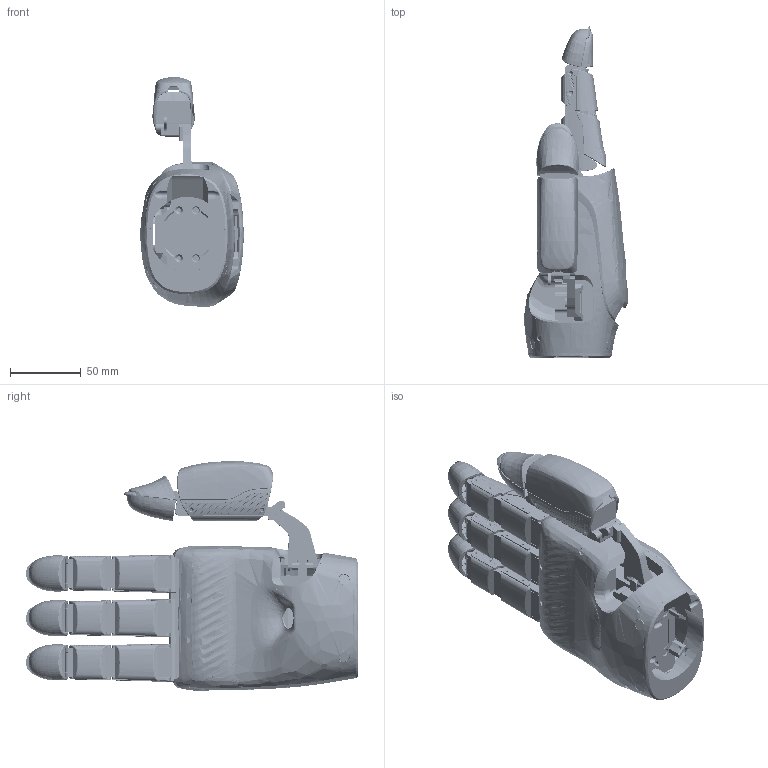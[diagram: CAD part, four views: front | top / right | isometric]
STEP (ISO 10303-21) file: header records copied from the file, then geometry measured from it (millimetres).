
FILE_DESCRIPTION((''),'2;1');
FILE_NAME('1-_1-EVT40001_ASM_ASM','2025-02-07T16:50:09',('yuyongkun'),(''),'CREO PARAMETRIC BY PTC INC, 2021063','CREO PARAMETRIC BY PTC INC, 2021063','');
FILE_SCHEMA(('AP242_MANAGED_MODEL_BASED_3D_ENGINEERING_MIM_LF { 1 0 10303 442 1 1 4 }'));
Products named in the file (79): P01H9-MP0-01-D10001_1; P01H9M1-09-B000_1_1; P01H9M1-09-B000_1_ASM; 1--------OLD_AF1000_ASM_2_ASM; P01H9-MP0-20-D500_2; P01H9-MP0-21-D600_2; P01H9-MP0-24-D0001_1; 00-G_1_1_1_2_2; 00-H_1_1_1_2_2; 20003_ASM_1_ASM; P01H9-MP0-23-D0001_3; 00-D_1_1_1_1_2_2; 00-E_1_3_2; 10003_ASM_2_ASM; P01H9M1-118-C-10001_2; P01H9M1-119-B-10001_2; P01H9M1-120-B-10001_2; 2409230001_ASM_2_ASM; 1-2407090001_ASM_2_ASM; P01H9M1-121-C-20001_2; P01H9M1-122-B-20001_2; 2_2409060001_ASM_3_ASM; 20004_ASM_1_ASM; P01S0M1-20001-A_1_2; PXSR-STDDP02B-20240705_ASM_35_A_ASM; PXSR-STDDP02B-20240705_ASM_ASM__ASM; P01H9-MP0-35-D0001_2; P01H9-MP3-27-C-0001_2; H132411270001_ASM_2_ASM; 32407090001_ASM_1_ASM; _EVT4_AF0_ASM_2_ASM; 1--------OLD_AF2000_ASM_2_ASM; _EVT4_AF1_ASM_2_ASM; 1--------OLD_AF3000_ASM_2_ASM; _EVT4_AF2_ASM_2_ASM; P01H9-MP0-14-D2000_2; 1--------OLD_AF0000_ASM_2_ASM; P01H9-MP0-15-D3000_2; P01H9-MP0-28-D0001_2; P01H9M1-31-C4000_2_ASM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
Assembly tree (97 placements, depth 7):
  1-_1-EVT40001_ASM_ASM
    1-_1-EVT40001_ASM_4_ASM
      P01H9-MP0-01-D10001_1
      _EVT4_AF0_ASM_2_ASM
        1--------OLD_AF1000_ASM_2_ASM
          P01H9M1-09-B000_1_ASM
            P01H9M1-09-B000_1_1
        P01H9-MP0-20-D500_2
        P01H9-MP0-21-D600_2
        20003_ASM_1_ASM
          P01H9-MP0-24-D0001_1
          00-G_1_1_1_2_2
          00-H_1_1_1_2_2
        10003_ASM_2_ASM
          P01H9-MP0-23-D0001_3
          00-D_1_1_1_1_2_2
          00-E_1_3_2
        1-2407090001_ASM_2_ASM
          2409230001_ASM_2_ASM
            P01H9M1-118-C-10001_2
            P01H9M1-119-B-10001_2
            P01H9M1-120-B-10001_2
        20004_ASM_1_ASM
          2_2409060001_ASM_3_ASM
            P01H9M1-121-C-20001_2
            P01H9M1-122-B-20001_2
        32407090001_ASM_1_ASM
          PXSR-STDDP02B-20240705_ASM_ASM__ASM
            PXSR-STDDP02B-20240705_ASM_35_A_ASM
              P01S0M1-20001-A_1_2
          H132411270001_ASM_2_ASM
            P01H9-MP0-35-D0001_2
            P01H9-MP3-27-C-0001_2
      _EVT4_AF1_ASM_2_ASM
        1--------OLD_AF2000_ASM_2_ASM
          P01H9M1-09-B000_1_ASM
            P01H9M1-09-B000_1_1
        P01H9-MP0-20-D500_2
        P01H9-MP0-21-D600_2
        20003_ASM_1_ASM
          P01H9-MP0-24-D0001_1
          00-G_1_1_1_2_2
          00-H_1_1_1_2_2
        10003_ASM_2_ASM
          P01H9-MP0-23-D0001_3
          00-D_1_1_1_1_2_2
          00-E_1_3_2
        1-2407090001_ASM_2_ASM
          2409230001_ASM_2_ASM
            P01H9M1-118-C-10001_2
            P01H9M1-119-B-10001_2
            P01H9M1-120-B-10001_2
        20004_ASM_1_ASM
          2_2409060001_ASM_3_ASM
            P01H9M1-121-C-20001_2
            P01H9M1-122-B-20001_2
        32407090001_ASM_1_ASM
          PXSR-STDDP02B-20240705_ASM_ASM__ASM
            PXSR-STDDP02B-20240705_ASM_35_A_ASM
              P01S0M1-20001-A_1_2
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Bounding box: 73.37 x 235.08 x 162.66 mm (x, y, z)
Volume: 650914.2 mm3; surface area: 324944 mm2
Topology: 68 solids, 70 shells, 7159 faces, 18774 edges, 12137 vertices
Faces by surface type: bspline 2611, plane 2317, cylinder 1732, cone 265, extrusion 207, torus 17, sphere 7, revolution 3
Entity records: 279111 total; most frequent: CARTESIAN_POINT 169085, ORIENTED_EDGE 22850, DIRECTION 14768, EDGE_CURVE 11425, VERTEX_POINT 7391, AXIS2_PLACEMENT_3D 5066, B_SPLINE_CURVE_WITH_KNOTS 4955, EDGE_LOOP 4728
